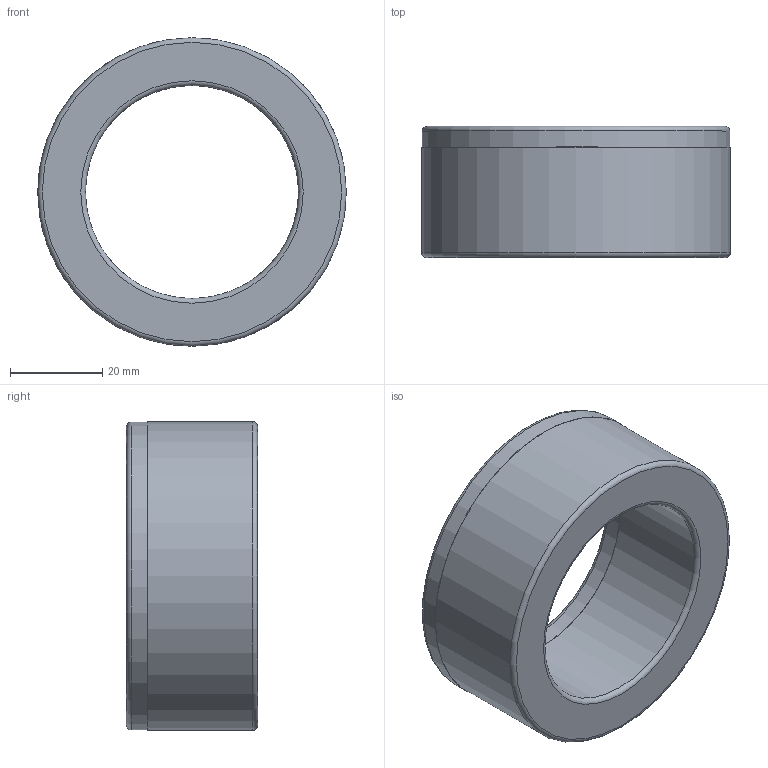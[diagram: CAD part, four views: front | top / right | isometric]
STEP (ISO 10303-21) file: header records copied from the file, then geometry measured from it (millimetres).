
FILE_DESCRIPTION(/* description */ (''),/* implementation_level */ '2;1');
FILE_NAME(/* name */ 'G:\KB-FTKon\CAD\Inventor\Kundenmodelle\Kerne\V319\V319_Shrinkwrap_1.stp',/* time_stamp */ '2020-01-13T11:10:32+01:00',/* author */ ('de881284'),/* organization */ (''),/* preprocessor_version */ 'ST-DEVELOPER v18',/* originating_system */ 'Autodesk Inventor 2020',/* authorisation */ '');
FILE_SCHEMA (('AUTOMOTIVE_DESIGN { 1 0 10303 214 3 1 1 }'));
Length unit declared in the file: millimetre
Products named in the file (1): V319_Shrinkwrap_1
Bounding box: 66.75 x 28.35 x 66.75 mm (x, y, z)
Volume: 51717.8 mm3; surface area: 13932.8 mm2
Topology: 1 solids, 1 shells, 18 faces, 40 edges, 28 vertices
Faces by surface type: plane 6, cylinder 6, torus 4, cone 2
Full cylindrical faces by diameter (mm): 46.1 x2, 47.3 x1, 65.55 x1, 66.75 x2
Entity records: 609 total; most frequent: DIRECTION 110, CARTESIAN_POINT 87, ORIENTED_EDGE 80, AXIS2_PLACEMENT_3D 51, EDGE_CURVE 40, CIRCLE 32, VERTEX_POINT 28, EDGE_LOOP 24
